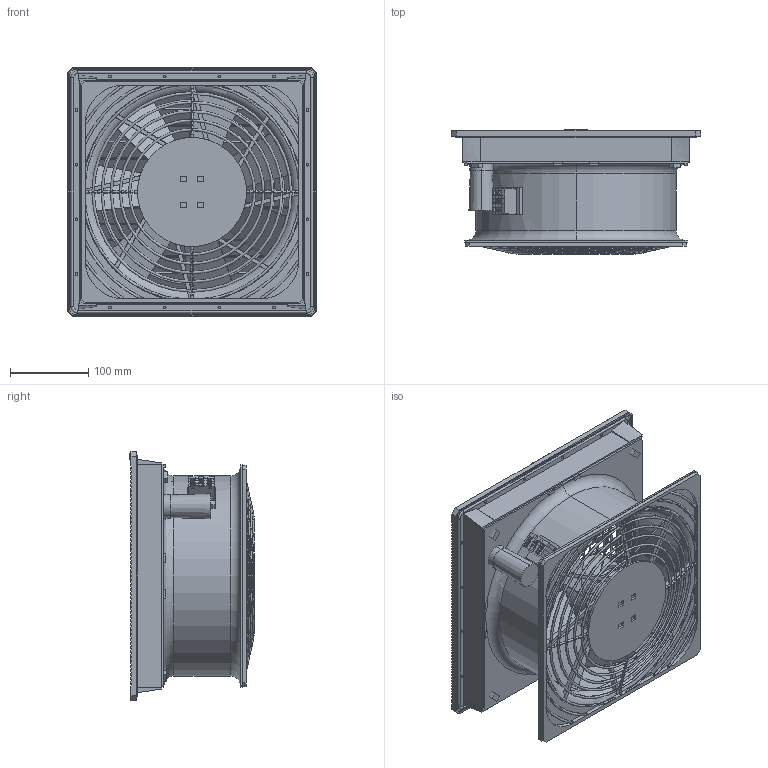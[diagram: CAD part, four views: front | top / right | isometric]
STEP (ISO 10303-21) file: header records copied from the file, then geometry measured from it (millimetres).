
FILE_DESCRIPTION (( 'STEP AP214' ), '1' );
FILE_NAME ('PF6x000_115V_230V_AP214.STEP', '2019-05-28T06:23:01', ( '' ), ( '' ), 'SwSTEP 2.0', 'SolidWorks 2017', '' );
FILE_SCHEMA (( 'AUTOMOTIVE_DESIGN' ));
Length unit declared in the file: millimetre
Products named in the file (9): Cap M plastic cup_040160004; Axial Lüfter Serie S2x 250_narrow_S2E 250 M2E068-CA; 30162-013; safty guard PF6x; Klemme_L_N_PE; fan flow in nozzel PF6x; cover PF6x; housing PF6x; PF6x000_115V_230V_AP214
Assembly tree (8 placements, depth 2):
  PF6x000_115V_230V_AP214
    housing PF6x
    cover PF6x
    fan flow in nozzel PF6x
    Klemme_L_N_PE
    safty guard PF6x
    30162-013
    Axial Lüfter Serie S2x 250_narrow_S2E 250 M2E068-CA
    Cap M plastic cup_040160004
Bounding box: 320 x 159 x 320 mm (x, y, z)
Volume: 1634894.4 mm3; surface area: 1017263.6 mm2
Topology: 16 solids, 16 shells, 1953 faces, 5416 edges, 3487 vertices
Faces by surface type: plane 995, cylinder 493, bspline 243, torus 176, cone 46
Entity records: 81859 total; most frequent: CARTESIAN_POINT 33191, ORIENTED_EDGE 10832, DIRECTION 8571, EDGE_CURVE 5416, VERTEX_POINT 3487, LINE 2921, VECTOR 2921, AXIS2_PLACEMENT_3D 2825
